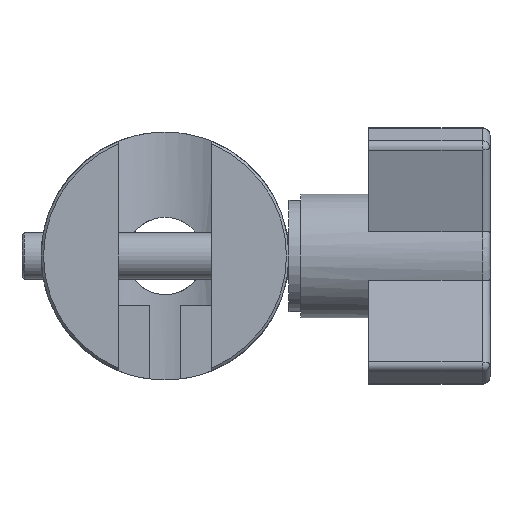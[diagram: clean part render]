
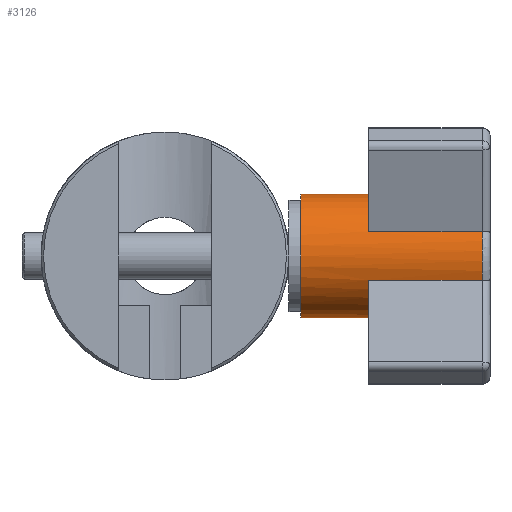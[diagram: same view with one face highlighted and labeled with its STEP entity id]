
A CAD part, front view. The second image highlights one B-rep face of the part: STEP entity #3126.
In plain terms, the highlighted cylindrical face has radius 6.35 mm (diameter 12.7 mm), a full revolution.
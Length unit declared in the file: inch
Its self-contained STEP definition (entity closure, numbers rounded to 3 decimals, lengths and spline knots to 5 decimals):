
#1431=CARTESIAN_POINT('',(-41.87706,-46.84057,-27.70114));
#1432=VERTEX_POINT('',#1431);
#1433=CARTESIAN_POINT('',(-41.87706,-46.84057,-27.45114));
#1434=DIRECTION('',(-1.0,0.0,0.0));
#1435=DIRECTION('',(0.0,0.0,-1.0));
#1436=AXIS2_PLACEMENT_3D('',#1433,#1434,#1435);
#1437=CIRCLE('',#1436,0.25);
#1438=EDGE_CURVE('',#1432,#1432,#1437,.T.);
#2120=CARTESIAN_POINT('',(-41.14531,-46.81067,-27.20293));
#2121=VERTEX_POINT('',#2120);
#2164=CARTESIAN_POINT('',(-41.14531,-46.64057,-27.30114));
#2165=VERTEX_POINT('',#2164);
#2213=CARTESIAN_POINT('',(-41.14531,-46.84057,-27.45114));
#2214=DIRECTION('',(1.0,0.,0.));
#2215=DIRECTION('',(0.,0.5,0.866));
#2216=AXIS2_PLACEMENT_3D('',#2213,#2214,#2215);
#2217=CIRCLE('',#2216,0.25);
#2218=EDGE_CURVE('',#2165,#2121,#2217,.T.);
#2286=CARTESIAN_POINT('',(-41.14531,-46.64057,-27.60114));
#2287=VERTEX_POINT('',#2286);
#2330=CARTESIAN_POINT('',(-41.14531,-46.81067,-27.69934));
#2331=VERTEX_POINT('',#2330);
#2379=CARTESIAN_POINT('',(-41.14531,-46.84057,-27.45114));
#2380=DIRECTION('',(1.0,0.,0.));
#2381=DIRECTION('',(0.,0.5,-0.866));
#2382=AXIS2_PLACEMENT_3D('',#2379,#2380,#2381);
#2383=CIRCLE('',#2382,0.25);
#2384=EDGE_CURVE('',#2331,#2287,#2383,.T.);
#2480=CARTESIAN_POINT('',(-41.14531,-47.07048,-27.35293));
#2481=VERTEX_POINT('',#2480);
#2538=CARTESIAN_POINT('',(-41.14531,-47.07048,-27.54934));
#2539=VERTEX_POINT('',#2538);
#2579=CARTESIAN_POINT('',(-41.14531,-46.84057,-27.45114));
#2580=DIRECTION('',(1.0,0.0,0.0));
#2581=DIRECTION('',(0.0,-1.0,0.0));
#2582=AXIS2_PLACEMENT_3D('',#2579,#2580,#2581);
#2583=CIRCLE('',#2582,0.25);
#2584=EDGE_CURVE('',#2481,#2539,#2583,.T.);
#2710=CARTESIAN_POINT('',(-41.60406,-46.81067,-27.69934));
#2711=VERTEX_POINT('',#2710);
#2718=CARTESIAN_POINT('',(-41.14531,-46.81067,-27.69934));
#2719=DIRECTION('',(-1.0,0.0,0.0));
#2720=VECTOR('',#2719,0.45875);
#2721=LINE('',#2718,#2720);
#2722=EDGE_CURVE('',#2331,#2711,#2721,.T.);
#2807=CARTESIAN_POINT('',(-41.60406,-47.07048,-27.54934));
#2808=VERTEX_POINT('',#2807);
#2809=CARTESIAN_POINT('',(-41.14531,-47.07048,-27.54934));
#2810=DIRECTION('',(-1.0,0.0,0.0));
#2811=VECTOR('',#2810,0.45875);
#2812=LINE('',#2809,#2811);
#2813=EDGE_CURVE('',#2539,#2808,#2812,.T.);
#2839=CARTESIAN_POINT('',(-41.60406,-47.07048,-27.35293));
#2840=VERTEX_POINT('',#2839);
#2847=CARTESIAN_POINT('',(-41.14531,-47.07048,-27.35293));
#2848=DIRECTION('',(-1.0,0.0,0.0));
#2849=VECTOR('',#2848,0.45875);
#2850=LINE('',#2847,#2849);
#2851=EDGE_CURVE('',#2481,#2840,#2850,.T.);
#2959=CARTESIAN_POINT('',(-41.60406,-46.81067,-27.20293));
#2960=VERTEX_POINT('',#2959);
#2961=CARTESIAN_POINT('',(-41.14531,-46.81067,-27.20293));
#2962=DIRECTION('',(-1.0,0.0,0.0));
#2963=VECTOR('',#2962,0.45875);
#2964=LINE('',#2961,#2963);
#2965=EDGE_CURVE('',#2121,#2960,#2964,.T.);
#2984=CARTESIAN_POINT('',(-41.60406,-46.84057,-27.45114));
#2985=DIRECTION('',(1.0,0.0,0.0));
#2986=DIRECTION('',(0.0,0.0,-1.0));
#2987=AXIS2_PLACEMENT_3D('',#2984,#2985,#2986);
#2988=CIRCLE('',#2987,0.25);
#2989=EDGE_CURVE('',#2960,#2840,#2988,.T.);
#3078=CARTESIAN_POINT('',(-41.49556,-46.84057,-27.45114));
#3079=DIRECTION('',(1.0,0.,0.));
#3080=DIRECTION('',(0.0,0.0,-1.0));
#3081=AXIS2_PLACEMENT_3D('',#3078,#3079,#3080);
#3082=CYLINDRICAL_SURFACE('',#3081,0.25);
#3083=ORIENTED_EDGE('',*,*,#2384,.F.);
#3084=ORIENTED_EDGE('',*,*,#2722,.T.);
#3085=CARTESIAN_POINT('',(-41.60406,-46.84057,-27.45114));
#3086=DIRECTION('',(1.0,0.0,0.0));
#3087=DIRECTION('',(0.0,0.0,-1.0));
#3088=AXIS2_PLACEMENT_3D('',#3085,#3086,#3087);
#3089=CIRCLE('',#3088,0.25);
#3090=EDGE_CURVE('',#2808,#2711,#3089,.T.);
#3091=ORIENTED_EDGE('',*,*,#3090,.F.);
#3092=ORIENTED_EDGE('',*,*,#2813,.F.);
#3093=ORIENTED_EDGE('',*,*,#2584,.F.);
#3094=ORIENTED_EDGE('',*,*,#2851,.T.);
#3095=ORIENTED_EDGE('',*,*,#2989,.F.);
#3096=ORIENTED_EDGE('',*,*,#2965,.F.);
#3097=ORIENTED_EDGE('',*,*,#2218,.F.);
#3098=CARTESIAN_POINT('',(-41.60406,-46.64057,-27.30114));
#3099=VERTEX_POINT('',#3098);
#3100=CARTESIAN_POINT('',(-41.14531,-46.64057,-27.30114));
#3101=DIRECTION('',(-1.0,0.0,0.0));
#3102=VECTOR('',#3101,0.45875);
#3103=LINE('',#3100,#3102);
#3104=EDGE_CURVE('',#2165,#3099,#3103,.T.);
#3105=ORIENTED_EDGE('',*,*,#3104,.T.);
#3106=CARTESIAN_POINT('',(-41.60406,-46.64057,-27.60114));
#3107=VERTEX_POINT('',#3106);
#3108=CARTESIAN_POINT('',(-41.60406,-46.84057,-27.45114));
#3109=DIRECTION('',(1.0,0.0,0.0));
#3110=DIRECTION('',(0.0,0.0,-1.0));
#3111=AXIS2_PLACEMENT_3D('',#3108,#3109,#3110);
#3112=CIRCLE('',#3111,0.25);
#3113=EDGE_CURVE('',#3107,#3099,#3112,.T.);
#3114=ORIENTED_EDGE('',*,*,#3113,.F.);
#3115=CARTESIAN_POINT('',(-41.14531,-46.64057,-27.60114));
#3116=DIRECTION('',(-1.0,0.0,0.0));
#3117=VECTOR('',#3116,0.45875);
#3118=LINE('',#3115,#3117);
#3119=EDGE_CURVE('',#2287,#3107,#3118,.T.);
#3120=ORIENTED_EDGE('',*,*,#3119,.F.);
#3121=EDGE_LOOP('',(#3083,#3084,#3091,#3092,#3093,#3094,#3095,#3096,#3097,#3105,#3114,#3120));
#3122=FACE_OUTER_BOUND('',#3121,.T.);
#3123=ORIENTED_EDGE('',*,*,#1438,.F.);
#3124=EDGE_LOOP('',(#3123));
#3125=FACE_BOUND('',#3124,.T.);
#3126=ADVANCED_FACE('',(#3122,#3125),#3082,.T.);
